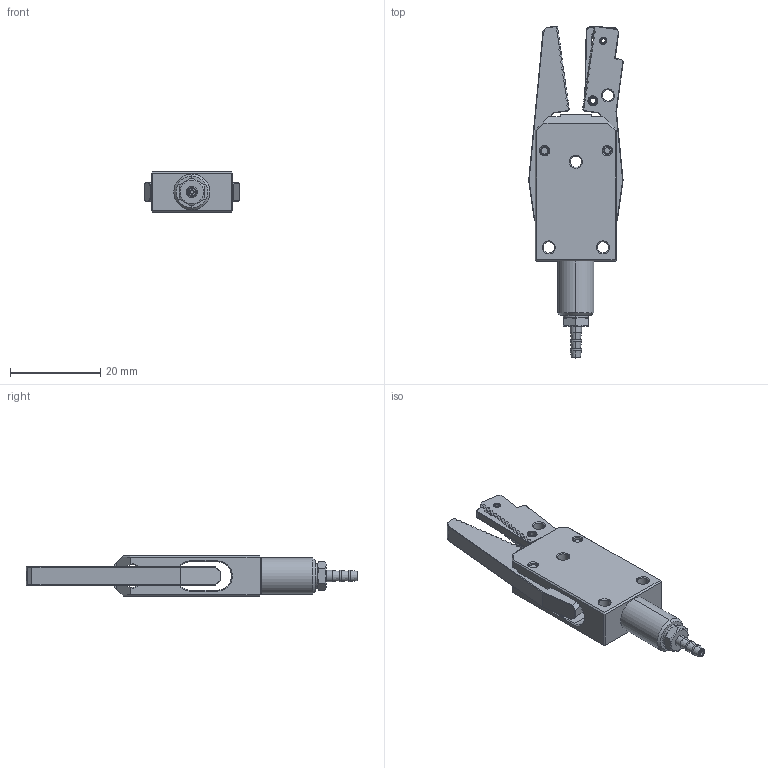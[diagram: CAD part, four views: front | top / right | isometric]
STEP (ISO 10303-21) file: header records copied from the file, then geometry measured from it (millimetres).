
FILE_DESCRIPTION (( 'STEP AP214' ), '1' );
FILE_NAME ('GRS08-C.STEP', '2019-11-12T01:47:23', ( '微软用户' ), ( '微软中国' ), 'SwSTEP 2.0', 'SolidWorks 2016', '' );
FILE_SCHEMA (( 'AUTOMOTIVE_DESIGN' ));
Length unit declared in the file: millimetre
Products named in the file (1): GRS08-C
Bounding box: 21 x 73.59 x 9 mm (x, y, z)
Volume: 5202.2 mm3; surface area: 5836.4 mm2
Topology: 10 solids, 10 shells, 773 faces, 2068 edges, 1315 vertices
Faces by surface type: plane 479, cone 121, bspline 88, cylinder 81, torus 4
Entity records: 38332 total; most frequent: CARTESIAN_POINT 10784, ORIENTED_EDGE 4136, DIRECTION 3613, EDGE_CURVE 2068, VECTOR 1519, LINE 1519, VERTEX_POINT 1315, AXIS2_PLACEMENT_3D 1047
